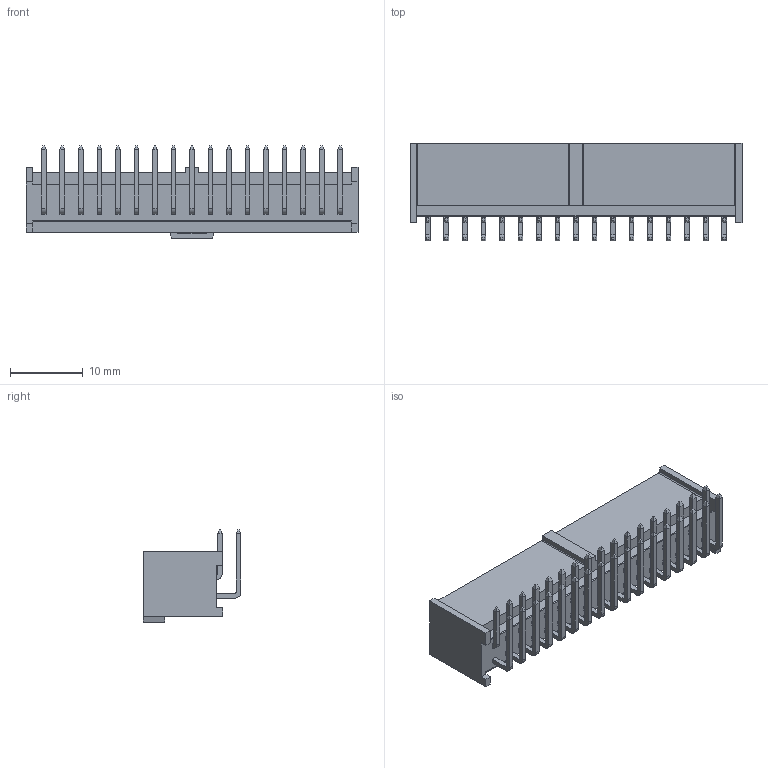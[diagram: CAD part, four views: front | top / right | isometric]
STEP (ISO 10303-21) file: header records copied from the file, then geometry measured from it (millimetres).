
FILE_DESCRIPTION((''),'2;1');
FILE_NAME('901303134','2013-04-05T',('me'),(''),'PRO/ENGINEER BY PARAMETRIC TECHNOLOGY CORPORATION, 2011490','PRO/ENGINEER BY PARAMETRIC TECHNOLOGY CORPORATION, 2011490','');
FILE_SCHEMA(('CONFIG_CONTROL_DESIGN'));
Length unit declared in the file: millimetre
Products named in the file (1): 901303134
Bounding box: 45.52 x 13.4 x 12.65 mm (x, y, z)
Volume: 1682.1 mm3; surface area: 4012.3 mm2
Topology: 1 solids, 1 shells, 771 faces, 1830 edges, 1128 vertices
Faces by surface type: plane 699, cylinder 72
Entity records: 21562 total; most frequent: CARTESIAN_POINT 3729, ORIENTED_EDGE 3660, DIRECTION 3516, EDGE_CURVE 1830, VECTOR 1686, LINE 1686, VERTEX_POINT 1128, AXIS2_PLACEMENT_3D 915
